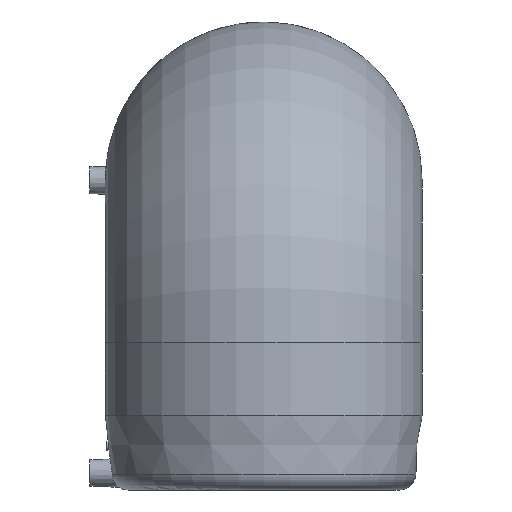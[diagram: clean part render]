
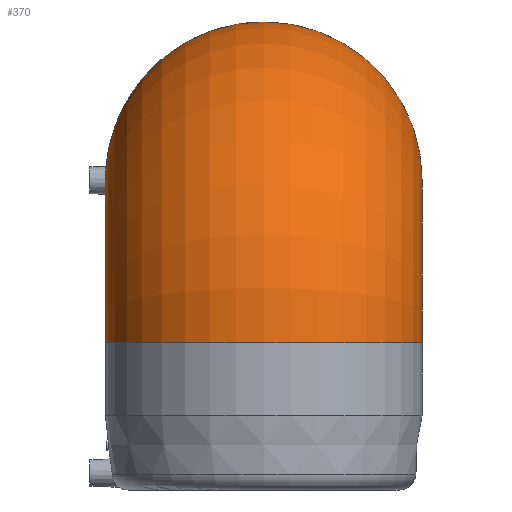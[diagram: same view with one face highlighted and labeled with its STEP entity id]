
A CAD part, left-side view. The second image highlights one B-rep face of the part: STEP entity #370.
In plain terms, the highlighted toroidal (fillet/blend) face has major radius 115 mm and minor radius 112 mm.
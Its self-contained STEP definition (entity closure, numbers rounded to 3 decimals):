
#47=TOROIDAL_SURFACE('',#428,115.,112.);
#56=CIRCLE('',#418,112.);
#58=CIRCLE('',#422,112.);
#105=ORIENTED_EDGE('',*,*,#166,.F.);
#106=ORIENTED_EDGE('',*,*,#168,.T.);
#166=EDGE_CURVE('',#203,#203,#56,.F.);
#168=EDGE_CURVE('',#205,#205,#58,.F.);
#203=VERTEX_POINT('',#682);
#205=VERTEX_POINT('',#688);
#258=EDGE_LOOP('',(#105));
#259=EDGE_LOOP('',(#106));
#317=FACE_BOUND('',#258,.T.);
#318=FACE_BOUND('',#259,.T.);
#370=ADVANCED_FACE('',(#317,#318),#47,.T.);
#418=AXIS2_PLACEMENT_3D('',#681,#492,#493);
#422=AXIS2_PLACEMENT_3D('',#687,#500,#501);
#428=AXIS2_PLACEMENT_3D('',#726,#512,#513);
#492=DIRECTION('',(-1.,0.,0.));
#493=DIRECTION('',(0.,0.,-1.));
#500=DIRECTION('',(0.,0.,-1.));
#501=DIRECTION('',(1.,0.,0.));
#512=DIRECTION('',(0.,1.,0.));
#513=DIRECTION('',(0.,0.,1.));
#681=CARTESIAN_POINT('',(115.,0.,219.));
#682=CARTESIAN_POINT('',(115.,0.,107.));
#687=CARTESIAN_POINT('',(0.,0.,104.));
#688=CARTESIAN_POINT('',(112.,0.,104.));
#726=CARTESIAN_POINT('',(115.,0.,104.));
